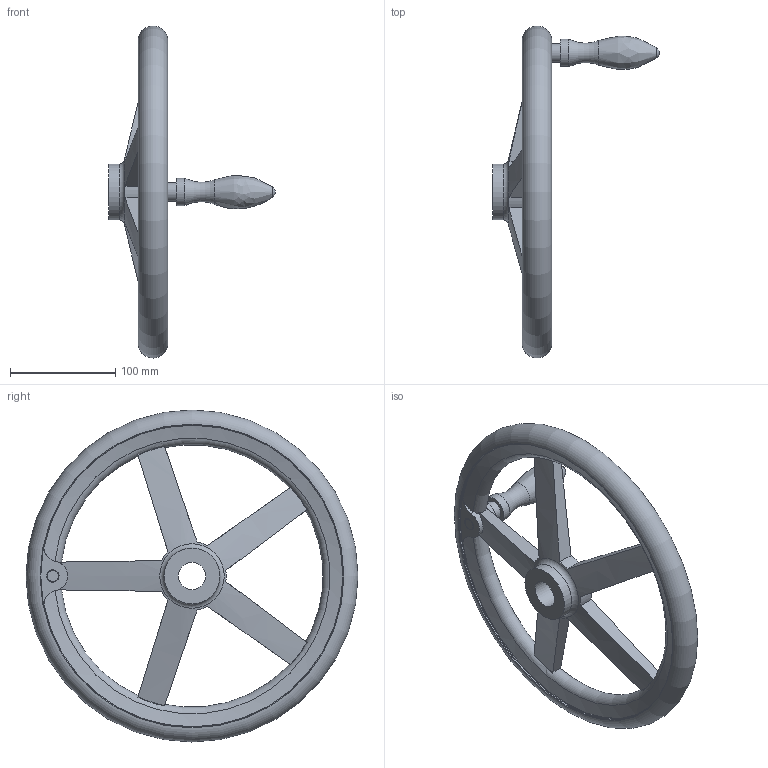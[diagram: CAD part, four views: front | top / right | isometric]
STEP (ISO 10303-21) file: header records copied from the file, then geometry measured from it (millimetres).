
FILE_DESCRIPTION( ( 'STEP AP203' ), '1' );
FILE_NAME( 'C:/Temp/Ganter_Step_05_03_2020/data/1_3/din_950/din_950_b/din_950_b_d/Handwheel DIN 950-AL-315-B26-D.stp', '2020-03-05T10:29:53', ( 'License CC BY-ND 4.0' ), ( 'CADENAS' ), ' ', 'PARTsolutions', ' ' );
FILE_SCHEMA( ( 'CONFIG_CONTROL_DESIGN' ) );
Length unit declared in the file: millimetre
Products named in the file (1): _Handwheel DIN 950-AL-315-B26-D
Bounding box: 158 x 315 x 315 mm (x, y, z)
Volume: 860134.5 mm3; surface area: 144222.1 mm2
Topology: 1 solids, 1 shells, 63 faces, 182 edges, 117 vertices
Faces by surface type: torus 21, cylinder 18, plane 16, cone 6, bspline 1, sphere 1
Full cylindrical faces by diameter (mm): 18 x1, 26 x2, 53 x2, 287 x2
Entity records: 2570 total; most frequent: CARTESIAN_POINT 1052, ORIENTED_EDGE 310, DIRECTION 278, EDGE_CURVE 155, AXIS2_PLACEMENT_3D 132, VERTEX_POINT 113, EDGE_LOOP 92, FACE_OUTER_BOUND 79
